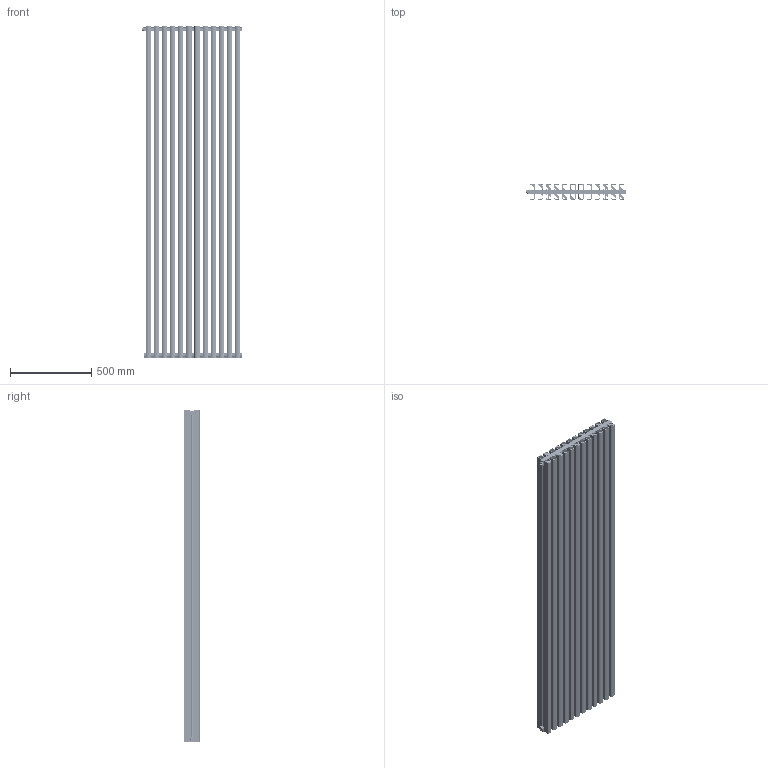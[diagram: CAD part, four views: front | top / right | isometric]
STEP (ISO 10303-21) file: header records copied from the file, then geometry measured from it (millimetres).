
FILE_DESCRIPTION (( 'STEP AP214' ), '1' );
FILE_NAME ('TONALE 2000_12.STEP', '2024-07-22T08:46:11', ( '' ), ( '' ), 'SwSTEP 2.0', 'SolidWorks 2024', '' );
FILE_SCHEMA (( 'AUTOMOTIVE_DESIGN' ));
Length unit declared in the file: millimetre
Products named in the file (12): P3EL00002A_2000; O-RING 2,4 D16,3; Art.011; EPC10022D_1000; Art.041; P3EL00004A_12 elementi; Assieme vitone con o_ring; TONALE 2000_12; P3EL00004A_12 elementi CS; ETV600G_foro Ø 4; Coperchietto
Assembly tree (63 placements, depth 3):
  TONALE 2000_12
    EPC10022D_1000  x12
    Art.011  x3
      Art.011
      Coperchietto
    Art.041
    Art.011  x4
    P3EL00002A_2000  x12
    P3EL00004A_12 elementi CS
    Assieme vitone con o_ring  x24
      ETV600G_foro Ø 4
      O-RING 2,4 D16,3
    P3EL00004A_12 elementi
Bounding box: 612.5 x 95 x 2039.3 mm (x, y, z)
Volume: 14425744.7 mm3; surface area: 17653374.3 mm2
Topology: 112 solids, 112 shells, 7108 faces, 19575 edges, 12454 vertices
Faces by surface type: plane 3014, cylinder 2992, cone 680, torus 224, bspline 150, sphere 48
Entity records: 38243 total; most frequent: CARTESIAN_POINT 14434, DIRECTION 4901, ORIENTED_EDGE 4862, EDGE_CURVE 2431, AXIS2_PLACEMENT_3D 1776, VERTEX_POINT 1575, VECTOR 1349, LINE 1349
